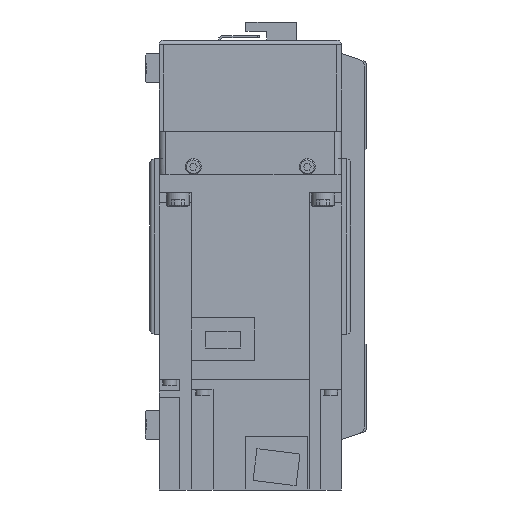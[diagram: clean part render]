
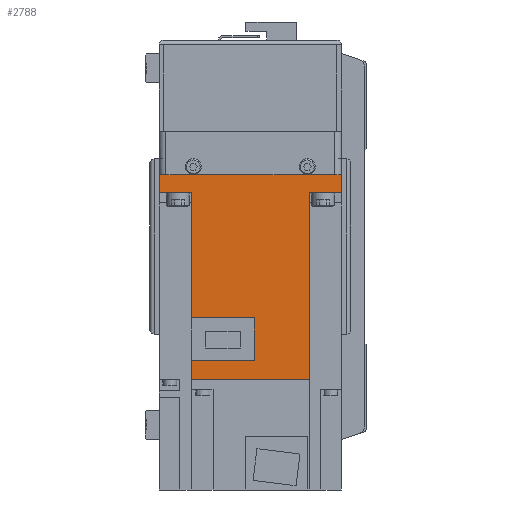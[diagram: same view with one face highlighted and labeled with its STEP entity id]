
A CAD part, left-side view. The second image highlights one B-rep face of the part: STEP entity #2788.
In plain terms, the highlighted planar face has unit normal (-1, 0, 0) as drawn and (1, 0, 0) by its records, which use the part's own axes.
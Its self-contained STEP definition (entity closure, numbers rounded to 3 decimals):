
#2788 = ADVANCED_FACE( '', ( #5901 ), #5902, .F. );
#5901 = FACE_OUTER_BOUND( '', #9209, .T. );
#5902 = PLANE( '', #9210 );
#9209 = EDGE_LOOP( '', ( #17054, #17055, #17056, #17057, #17058, #17059, #17060, #17061, #17062, #17063, #17064, #17065 ) );
#9210 = AXIS2_PLACEMENT_3D( '', #17066, #17067, #17068 );
#17054 = ORIENTED_EDGE( '', *, *, #19054, .F. );
#17055 = ORIENTED_EDGE( '', *, *, #18985, .F. );
#17056 = ORIENTED_EDGE( '', *, *, #21527, .F. );
#17057 = ORIENTED_EDGE( '', *, *, #21901, .T. );
#17058 = ORIENTED_EDGE( '', *, *, #20482, .F. );
#17059 = ORIENTED_EDGE( '', *, *, #22027, .T. );
#17060 = ORIENTED_EDGE( '', *, *, #20333, .T. );
#17061 = ORIENTED_EDGE( '', *, *, #20954, .F. );
#17062 = ORIENTED_EDGE( '', *, *, #21433, .F. );
#17063 = ORIENTED_EDGE( '', *, *, #18987, .F. );
#17064 = ORIENTED_EDGE( '', *, *, #20522, .F. );
#17065 = ORIENTED_EDGE( '', *, *, #22028, .F. );
#17066 = CARTESIAN_POINT( '', ( 40., 89.8, 40. ) );
#17067 = DIRECTION( '', ( -1., 0., 0. ) );
#17068 = DIRECTION( '', ( 0., 0., 1. ) );
#18985 = EDGE_CURVE( '', #22596, #22598, #22599, .T. );
#18987 = EDGE_CURVE( '', #22600, #22602, #22603, .T. );
#19054 = EDGE_CURVE( '', #22598, #22722, #22723, .T. );
#20333 = EDGE_CURVE( '', #24874, #24872, #24875, .T. );
#20482 = EDGE_CURVE( '', #25100, #25102, #25103, .T. );
#20522 = EDGE_CURVE( '', #25161, #22600, #25162, .T. );
#20954 = EDGE_CURVE( '', #25797, #24872, #25799, .T. );
#21433 = EDGE_CURVE( '', #22602, #25797, #26458, .T. );
#21527 = EDGE_CURVE( '', #26578, #22596, #26580, .T. );
#21901 = EDGE_CURVE( '', #26578, #25102, #27052, .T. );
#22027 = EDGE_CURVE( '', #25100, #24874, #27199, .T. );
#22028 = EDGE_CURVE( '', #22722, #25161, #27200, .T. );
#22596 = VERTEX_POINT( '', #27884 );
#22598 = VERTEX_POINT( '', #27887 );
#22599 = LINE( '', #27888, #27889 );
#22600 = VERTEX_POINT( '', #27890 );
#22602 = VERTEX_POINT( '', #27893 );
#22603 = LINE( '', #27894, #27895 );
#22722 = VERTEX_POINT( '', #28060 );
#22723 = LINE( '', #28061, #28062 );
#24872 = VERTEX_POINT( '', #31266 );
#24874 = VERTEX_POINT( '', #31269 );
#24875 = LINE( '', #31270, #31271 );
#25100 = VERTEX_POINT( '', #31586 );
#25102 = VERTEX_POINT( '', #31589 );
#25103 = LINE( '', #31590, #31591 );
#25161 = VERTEX_POINT( '', #31673 );
#25162 = LINE( '', #31674, #31675 );
#25797 = VERTEX_POINT( '', #32608 );
#25799 = LINE( '', #32611, #32612 );
#26458 = LINE( '', #33635, #33636 );
#26578 = VERTEX_POINT( '', #33834 );
#26580 = LINE( '', #33837, #33838 );
#27052 = LINE( '', #34537, #34538 );
#27199 = LINE( '', #34742, #34743 );
#27200 = LINE( '', #34744, #34745 );
#27884 = CARTESIAN_POINT( '', ( 40., 89.8, -25.95 ) );
#27887 = CARTESIAN_POINT( '', ( 40., 81.4, -25.95 ) );
#27888 = CARTESIAN_POINT( '', ( 40., 158., -25.95 ) );
#27889 = VECTOR( '', #35397, 1000. );
#27890 = CARTESIAN_POINT( '', ( 40., 62.8, -25.95 ) );
#27893 = CARTESIAN_POINT( '', ( 40., 8., -25.95 ) );
#27894 = CARTESIAN_POINT( '', ( 40., 158., -25.95 ) );
#27895 = VECTOR( '', #35399, 1000. );
#28060 = CARTESIAN_POINT( '', ( 40., 81.4, 1.8 ) );
#28061 = CARTESIAN_POINT( '', ( 40., 81.4, -26. ) );
#28062 = VECTOR( '', #35476, 1000. );
#31266 = CARTESIAN_POINT( '', ( 40., 0., -40. ) );
#31269 = CARTESIAN_POINT( '', ( 40., 0., 40. ) );
#31270 = CARTESIAN_POINT( '', ( 40., 0., 40. ) );
#31271 = VECTOR( '', #37137, 1000. );
#31586 = CARTESIAN_POINT( '', ( 40., 8., 40. ) );
#31589 = CARTESIAN_POINT( '', ( 40., 8., 25.95 ) );
#31590 = CARTESIAN_POINT( '', ( 40., 8., 40. ) );
#31591 = VECTOR( '', #37311, 1000. );
#31673 = CARTESIAN_POINT( '', ( 40., 62.8, 1.8 ) );
#31674 = CARTESIAN_POINT( '', ( 40., 62.8, 1.8 ) );
#31675 = VECTOR( '', #37357, 1000. );
#32608 = CARTESIAN_POINT( '', ( 40., 8., -40. ) );
#32611 = CARTESIAN_POINT( '', ( 40., 89.8, -40. ) );
#32612 = VECTOR( '', #37872, 1000. );
#33635 = CARTESIAN_POINT( '', ( 40., 8., 40. ) );
#33636 = VECTOR( '', #38441, 1000. );
#33834 = CARTESIAN_POINT( '', ( 40., 89.8, 25.95 ) );
#33837 = CARTESIAN_POINT( '', ( 40., 89.8, 40. ) );
#33838 = VECTOR( '', #38530, 1000. );
#34537 = CARTESIAN_POINT( '', ( 40., 158., 25.95 ) );
#34538 = VECTOR( '', #38913, 1000. );
#34742 = CARTESIAN_POINT( '', ( 40., 89.8, 40. ) );
#34743 = VECTOR( '', #39015, 1000. );
#34744 = CARTESIAN_POINT( '', ( 40., 81.4, 1.8 ) );
#34745 = VECTOR( '', #39016, 1000. );
#35397 = DIRECTION( '', ( 0., -1., 0. ) );
#35399 = DIRECTION( '', ( 0., -1., 0. ) );
#35476 = DIRECTION( '', ( 0., 0., 1. ) );
#37137 = DIRECTION( '', ( 0., 0., -1. ) );
#37311 = DIRECTION( '', ( 0., 0., -1. ) );
#37357 = DIRECTION( '', ( 0., 0., -1. ) );
#37872 = DIRECTION( '', ( 0., -1., 0. ) );
#38441 = DIRECTION( '', ( 0., 0., -1. ) );
#38530 = DIRECTION( '', ( 0., 0., -1. ) );
#38913 = DIRECTION( '', ( 0., -1., 0. ) );
#39015 = DIRECTION( '', ( 0., -1., 0. ) );
#39016 = DIRECTION( '', ( 0., -1., 0. ) );
